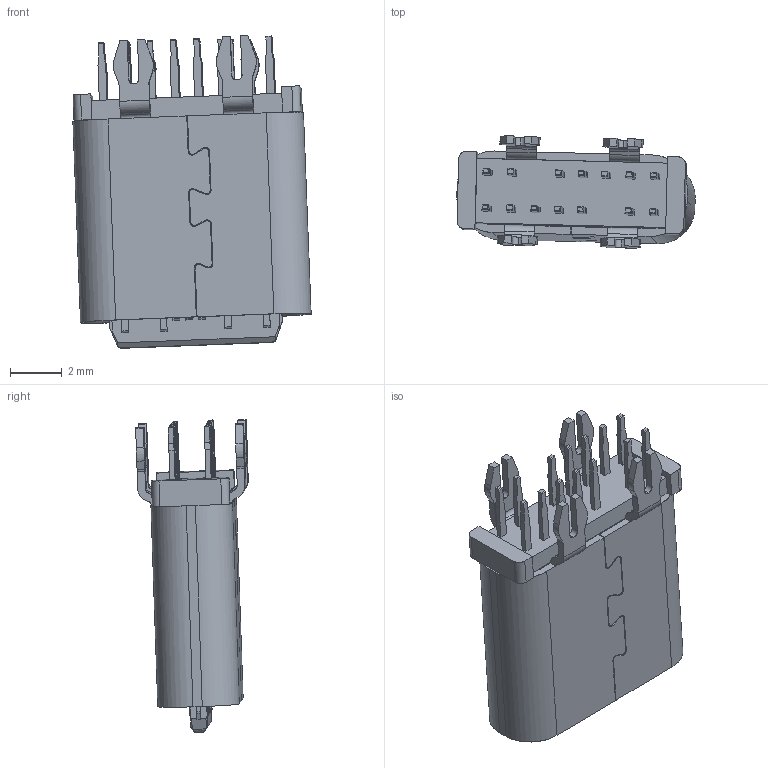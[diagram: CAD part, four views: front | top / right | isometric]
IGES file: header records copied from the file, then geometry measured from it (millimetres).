
Start section: SolidWorks IGES file using analytic representation for surfaces
Global section: file name: Z:\规格书系列\A品赞TYPE C\母座系列\GT-USB-7035\GT-USB-7035A\GT-USB-7035A.IGS; native system: SolidWorks 2021; preprocessor: SolidWorks 2021; author: Lenovo; date: 230304.165741; units: millimetre
Bounding box: 9.24 x 4.36 x 12.12 mm (x, y, z)
Surface area: 640.1 mm2 (no closed solid volume)
Topology: 0 solids, 0 shells, 684 faces, 4763 edges, 4763 vertices
Faces by surface type: bspline 660, revolution 24
